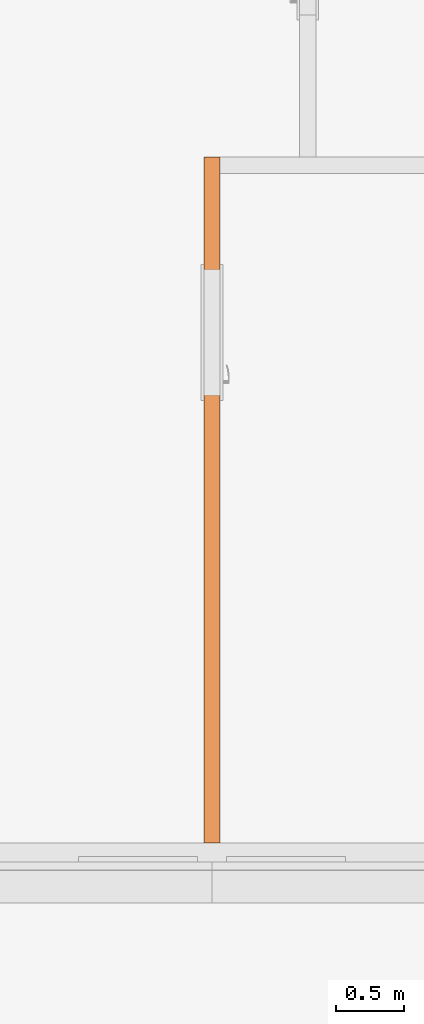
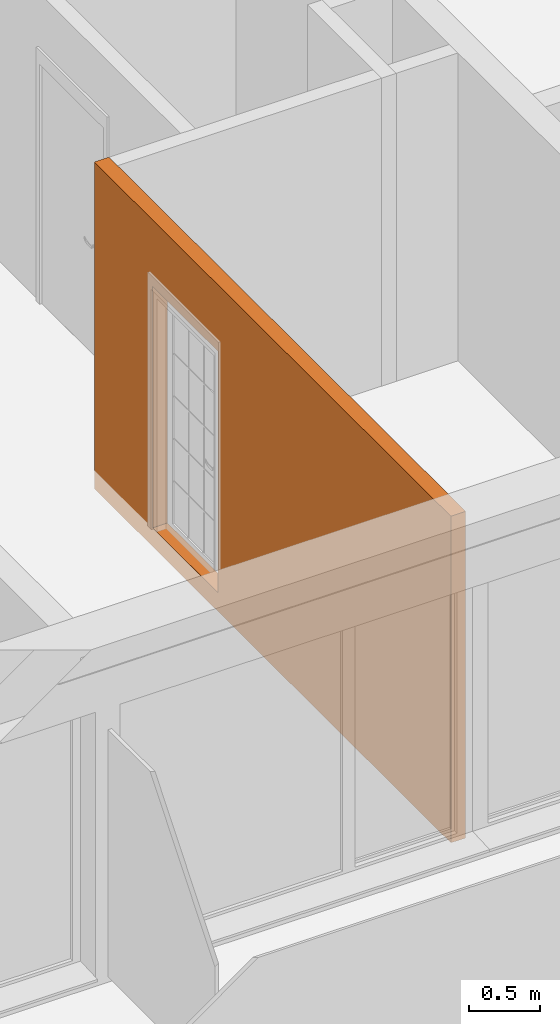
# One storey, part 39 of 66: 1 proxy, 1 opening.
"""IFC2X3 building model written with IfcOpenShell, lengths in millimetres."""

from ifc_helpers import new_model, entity, si_unit, converted_unit, derived_unit, money_unit, direction, frame, origin_with_axes, origin_2d_with_axis, place, context, subcontext, project, spatial, rectangle, extrude, faceted_brep, material, type_object, element, save


model = new_model("IFC2X3")

# Units and contexts
model_context = context("Model", 3, precision=0.01, world=origin_with_axes(), true_north=direction((0.34421633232, 0.938890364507)))
body_context = subcontext(model_context, "Body", "Model", "MODEL_VIEW")
ifc_project = project(units=[si_unit("LENGTHUNIT", "METRE", prefix="MILLI"), si_unit("AREAUNIT", "SQUARE_METRE"), si_unit("VOLUMEUNIT", "CUBIC_METRE"), converted_unit("PLANEANGLEUNIT", "DEGREE", entity("IfcPlaneAngleMeasure", 0.0174532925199), si_unit("PLANEANGLEUNIT", "RADIAN"), dimensions=[0, 0, 0, 0, 0, 0, 0]), si_unit("SOLIDANGLEUNIT", "STERADIAN"), money_unit("USD"), converted_unit("TIMEUNIT", "Year", entity("IfcTimeMeasure", 31556926.0), si_unit("TIMEUNIT", "SECOND"), dimensions=[0, 0, 1, 0, 0, 0, 0]), si_unit("MASSUNIT", "GRAM", prefix="KILO"), si_unit("THERMODYNAMICTEMPERATUREUNIT", "DEGREE_CELSIUS"), si_unit("LUMINOUSINTENSITYUNIT", "LUMEN"), si_unit("ENERGYUNIT", "JOULE", prefix="MEGA"), derived_unit("THERMALCONDUCTANCEUNIT", [(si_unit("POWERUNIT", "WATT"), 1), (si_unit("LENGTHUNIT", "METRE"), -1), (si_unit("THERMODYNAMICTEMPERATUREUNIT", "KELVIN"), -1)]), derived_unit("SPECIFICHEATCAPACITYUNIT", [(si_unit("ENERGYUNIT", "JOULE"), 1), (si_unit("MASSUNIT", "GRAM", prefix="KILO"), -1), (si_unit("THERMODYNAMICTEMPERATUREUNIT", "KELVIN"), -1)]), derived_unit("MASSDENSITYUNIT", [(si_unit("MASSUNIT", "GRAM", prefix="KILO"), 1), (si_unit("VOLUMEUNIT", "CUBIC_METRE"), -1)])], contexts=[model_context])

# Site, building, storey
site_placement = place(None, origin_with_axes())
site = spatial("IfcSite", under=ifc_project, at=site_placement, Name="USTRONIE MORSKIE", CompositionType="ELEMENT")
building_placement = place(site_placement, origin_with_axes())
building = spatial("IfcBuilding", under=site, at=building_placement, Name="Budynek", CompositionType="ELEMENT")
storey_placement = place(building_placement, frame((0.0, 0.0, 10000.0), z_axis=(0.0, 0.0, 1.0), x_axis=(1.0, 0.0, 0.0)))
storey = spatial("IfcBuildingStorey", under=building, at=storey_placement, Name="PIĘTRO 3", CompositionType="ELEMENT", Elevation=10000.0)

# Proxy, opening
ifc_material = material(Name="Bloczki silikatowe")
building_element_proxy_type = type_object("IfcBuildingElementProxyType", Name="Bloczki silikatowe 120", PredefinedType="NOTDEFINED")
proxy_placement = place(storey_placement, frame((376397.901569, 731951.199132, -160.0), z_axis=(0.0, 0.0, 1.0), x_axis=(0.0, -1.0, 0.0)))
proxy = element("IfcBuildingElementProxy", 1, at=proxy_placement, inside=storey, type_object=building_element_proxy_type, material=ifc_material, Name="SW-04", context=body_context, shape_type="Brep", body=[
    faceted_brep([(4950.00009633, -60.0, 2800.0), (4950.00009633, 60.0, 2800.0), (-59.9999999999, 60.0, 2800.0), (-59.9999999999, -60.0, 2800.0), (4950.00009633, -60.0, 0.0), (4950.00009633, 60.0, 0.0), (-59.9999999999, 60.0, 0.0), (-59.9999999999, -60.0, 0.0)], [[[0, 1, 2, 3]], [[1, 0, 4, 5]], [[1, 5, 6, 2]], [[7, 3, 2, 6]], [[4, 0, 3, 7]], [[5, 4, 7, 6]]]),
])
opening_placement = place(proxy_placement, frame((1220.00038806, 0.0, 160.0), z_axis=(0.0, 0.0, 1.0), x_axis=(1.0, 0.0, 0.0)))
element("IfcOpeningElement", 2, at=opening_placement, cuts=proxy, Name="Dw.3", context=body_context, shape_type="SweptSolid", body=[
    extrude(rectangle(XDim=920.0, YDim=2070.0, at=origin_2d_with_axis()), frame((0.0, 120.0, 1035.0), z_axis=(0.0, 1.0, 0.0), x_axis=(-1.0, 0.0, 0.0)), (0.0, 0.0, -1.0), 360.0),
    extrude(rectangle(XDim=994.0, YDim=2177.0, at=origin_2d_with_axis()), frame((0.0, 60.0, 1088.5), z_axis=(0.0, 1.0, 0.0), x_axis=(-1.0, 0.0, 0.0)), (0.0, 0.0, 1.0), 120.0),
    extrude(rectangle(XDim=994.0, YDim=2177.0, at=origin_2d_with_axis()), frame((0.0, -60.0, 1088.5), z_axis=(0.0, -1.0, 0.0), x_axis=(-1.0, 0.0, 0.0)), (0.0, 0.0, 1.0), 120.0),
])

save(model, "model.ifc")
